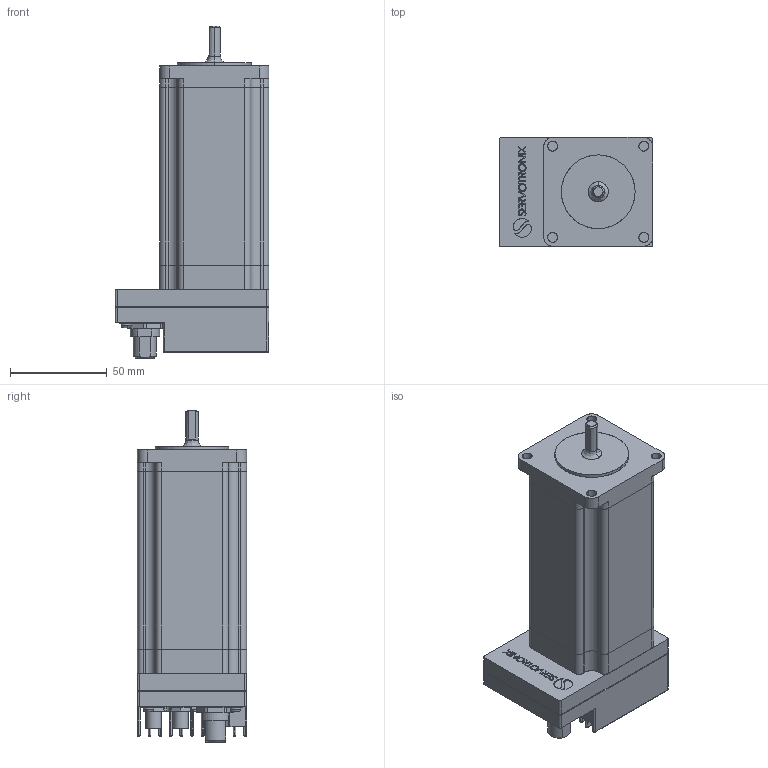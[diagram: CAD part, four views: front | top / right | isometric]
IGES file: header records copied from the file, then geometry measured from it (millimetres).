
Start section: SolidWorks IGES file using analytic representation for surfaces
Global section: file name: C:\Work\Sevotronix\NEMA 23 IP 65\CAD\Model and Drawing for web site\stepIM_IST-23L16CO10-0.IGS; native system: SolidWorks 2013; preprocessor: SolidWorks 2013; author: owner; date: 160403.132613; units: millimetre
Bounding box: 79.4 x 56.4 x 171.6 mm (x, y, z)
Surface area: 90895.6 mm2 (no closed solid volume)
Topology: 0 solids, 0 shells, 1149 faces, 14218 edges, 14218 vertices
Faces by surface type: bspline 628, revolution 521
